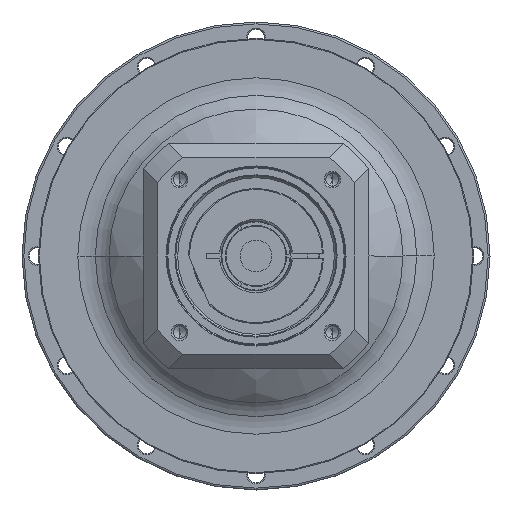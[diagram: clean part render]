
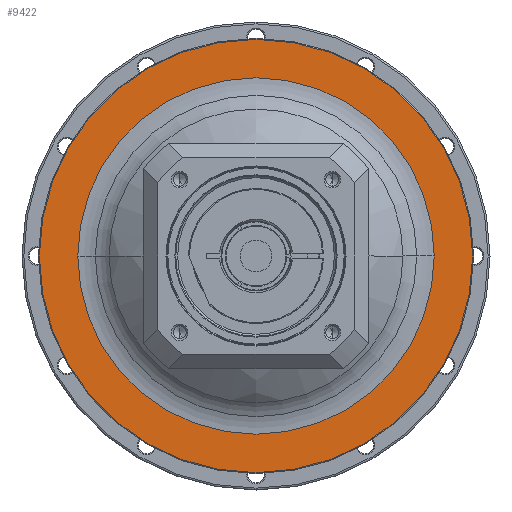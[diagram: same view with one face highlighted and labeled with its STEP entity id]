
A CAD part, left-side view. The second image highlights one B-rep face of the part: STEP entity #9422.
In plain terms, the highlighted planar face has unit normal (-1, 0, 0) as drawn and (1, 0, 0) by its records, which use the part's own axes.
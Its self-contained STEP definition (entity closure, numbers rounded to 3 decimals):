
#8381=CARTESIAN_POINT('',(-27.,0.,0.));
#8382=DIRECTION('',(1.,0.,0.));
#8383=DIRECTION('',(0.,1.,0.));
#8384=AXIS2_PLACEMENT_3D('',#8381,#8382,#8383);
#8386=CARTESIAN_POINT('',(-27.,0.,0.));
#8387=DIRECTION('',(1.,0.,0.));
#8388=DIRECTION('',(0.,-1.,0.));
#8389=AXIS2_PLACEMENT_3D('',#8386,#8387,#8388);
#8391=CARTESIAN_POINT('',(-27.,0.,0.));
#8392=DIRECTION('',(-1.,0.,0.));
#8393=DIRECTION('',(0.,-1.,0.));
#8394=AXIS2_PLACEMENT_3D('',#8391,#8392,#8393);
#8396=CARTESIAN_POINT('',(-27.,0.,0.));
#8397=DIRECTION('',(-1.,0.,0.));
#8398=DIRECTION('',(0.,1.,0.));
#8399=AXIS2_PLACEMENT_3D('',#8396,#8397,#8398);
#8703=CARTESIAN_POINT('',(-27.,-115.5,0.));
#8704=CARTESIAN_POINT('',(-27.,115.5,0.));
#8705=VERTEX_POINT('',#8703);
#8706=VERTEX_POINT('',#8704);
#8817=CARTESIAN_POINT('',(-27.,95.,0.));
#8818=VERTEX_POINT('',#8817);
#8819=CARTESIAN_POINT('',(-27.,-95.,0.));
#8820=VERTEX_POINT('',#8819);
#9407=CARTESIAN_POINT('',(-27.,0.,0.));
#9408=DIRECTION('',(1.,0.,0.));
#9409=DIRECTION('',(0.,-1.,0.));
#9410=AXIS2_PLACEMENT_3D('',#9407,#9408,#9409);
#9411=PLANE('',#9410);
#9412=ORIENTED_EDGE('',*,*,#9363,.T.);
#9413=ORIENTED_EDGE('',*,*,#9348,.T.);
#9414=EDGE_LOOP('',(#9412,#9413));
#9415=FACE_OUTER_BOUND('',#9414,.F.);
#9417=ORIENTED_EDGE('',*,*,#9416,.T.);
#9419=ORIENTED_EDGE('',*,*,#9418,.T.);
#9420=EDGE_LOOP('',(#9417,#9419));
#9421=FACE_BOUND('',#9420,.F.);
#9422=ADVANCED_FACE('',(#9415,#9421),#9411,.T.);
#8385=CIRCLE('',#8384,95.);
#8390=CIRCLE('',#8389,95.);
#8395=CIRCLE('',#8394,115.5);
#8400=CIRCLE('',#8399,115.5);
#9348=EDGE_CURVE('',#8706,#8705,#8400,.T.);
#9363=EDGE_CURVE('',#8705,#8706,#8395,.T.);
#9416=EDGE_CURVE('',#8818,#8820,#8385,.T.);
#9418=EDGE_CURVE('',#8820,#8818,#8390,.T.);
